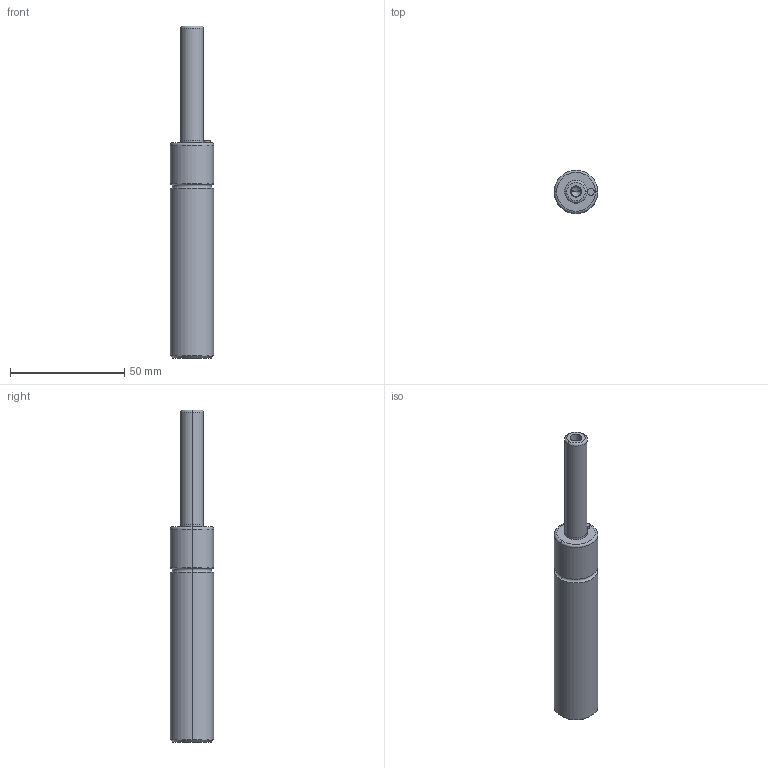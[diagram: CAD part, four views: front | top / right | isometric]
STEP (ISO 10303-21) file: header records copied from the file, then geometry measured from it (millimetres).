
FILE_DESCRIPTION(/* description */ (''),/* implementation_level */ '2;1');
FILE_NAME(/* name */ '3d_mgsa19-50_04546_r00.stp',/* time_stamp */ '2011-01-10T14:13:36+09:00',/* author */ ('MISUMI'),/* organization */ (''),/* preprocessor_version */ 'ST-DEVELOPER v11',/* originating_system */ 'UGS - NX 5.0',/* authorisation */ '');
FILE_SCHEMA (('CONFIG_CONTROL_DESIGN'));
Length unit declared in the file: millimetre
Products named in the file (1): 3d_mgsa19-50_04546_r00
Bounding box: 19 x 19 x 145 mm (x, y, z)
Volume: 30137.9 mm3; surface area: 8054.9 mm2
Topology: 1 solids, 1 shells, 36 faces, 74 edges, 42 vertices
Faces by surface type: cylinder 18, torus 6, cone 6, plane 6
Entity records: 1014 total; most frequent: DIRECTION 190, CARTESIAN_POINT 149, ORIENTED_EDGE 140, AXIS2_PLACEMENT_3D 83, EDGE_CURVE 70, CIRCLE 46, EDGE_LOOP 42, VERTEX_POINT 42
